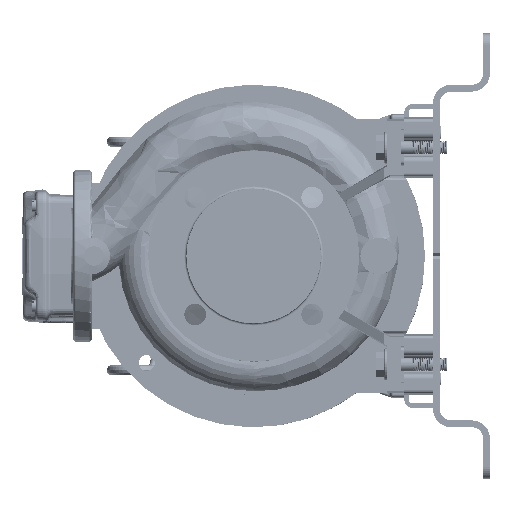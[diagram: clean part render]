
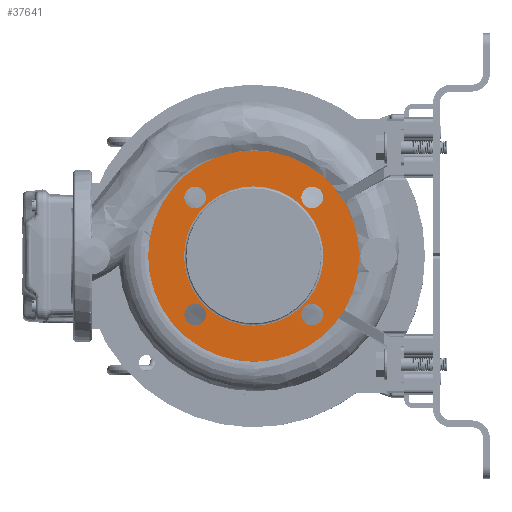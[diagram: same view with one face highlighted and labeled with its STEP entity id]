
A CAD part, left-side view. The second image highlights one B-rep face of the part: STEP entity #37641.
In plain terms, the highlighted planar face has unit normal (-1, 0, 0).
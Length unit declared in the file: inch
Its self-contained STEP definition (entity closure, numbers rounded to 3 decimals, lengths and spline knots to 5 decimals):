
#1914 = CARTESIAN_POINT ( 'NONE',  ( -2.17195, 5.17172, 11.23647 ) ) ;
#1957 = EDGE_CURVE ( 'NONE', #105977, #53203, #112809, .T. ) ;
#4215 = EDGE_LOOP ( 'NONE', ( #87037, #152146 ) ) ;
#5195 = AXIS2_PLACEMENT_3D ( 'NONE', #135320, #96369, #71310 ) ;
#6314 = DIRECTION ( 'NONE',  ( -1., 0., 0. ) ) ;
#9363 = CARTESIAN_POINT ( 'NONE',  ( -2.17195, 6.81603, 9.21815 ) ) ;
#9854 = DIRECTION ( 'NONE',  ( -1., 0., 0. ) ) ;
#10013 = CARTESIAN_POINT ( 'NONE',  ( -2.17195, 7.5733, 11.23647 ) ) ;
#11993 = ORIENTED_EDGE ( 'NONE', *, *, #88673, .F. ) ;
#13375 = CIRCLE ( 'NONE', #151343, 0.37402 ) ;
#19360 = EDGE_CURVE ( 'NONE', #126767, #54666, #145130, .T. ) ;
#22494 = AXIS2_PLACEMENT_3D ( 'NONE', #58581, #71559, #57728 ) ;
#23072 = DIRECTION ( 'NONE',  ( -1., 0., 0. ) ) ;
#24133 = CIRCLE ( 'NONE', #73861, 0.37402 ) ;
#24758 = CARTESIAN_POINT ( 'NONE',  ( -2.17195, 7.19004, 9.21815 ) ) ;
#24900 = DIRECTION ( 'NONE',  ( -1., 0., 0. ) ) ;
#25191 = DIRECTION ( 'NONE',  ( -1., 0., 0. ) ) ;
#25436 = CIRCLE ( 'NONE', #108221, 3.64173 ) ;
#25553 = VERTEX_POINT ( 'NONE', #45716 ) ;
#32091 = VERTEX_POINT ( 'NONE', #121274 ) ;
#32906 = ORIENTED_EDGE ( 'NONE', *, *, #101066, .F. ) ;
#34231 = AXIS2_PLACEMENT_3D ( 'NONE', #90145, #167143, #63357 ) ;
#35550 = CARTESIAN_POINT ( 'NONE',  ( -2.17195, 3.52742, 9.21815 ) ) ;
#36402 = CARTESIAN_POINT ( 'NONE',  ( -2.17195, 3.15341, 13.25478 ) ) ;
#36452 = EDGE_LOOP ( 'NONE', ( #130084, #130408 ) ) ;
#36853 = EDGE_LOOP ( 'NONE', ( #11993, #76667 ) ) ;
#36872 = CARTESIAN_POINT ( 'NONE',  ( -2.17195, 5.17172, 11.23647 ) ) ;
#37641 = ADVANCED_FACE ( 'NONE', ( #169866, #156908, #166452, #141366, #102411, #49684 ), #155194, .F. ) ;
#38948 = DIRECTION ( 'NONE',  ( 0., 0., 1. ) ) ;
#40424 = ORIENTED_EDGE ( 'NONE', *, *, #19360, .T. ) ;
#45716 = CARTESIAN_POINT ( 'NONE',  ( -2.17195, 7.56406, 13.25478 ) ) ;
#45733 = AXIS2_PLACEMENT_3D ( 'NONE', #102707, #24900, #100158 ) ;
#47797 = CARTESIAN_POINT ( 'NONE',  ( -2.17195, 3.15341, 9.21815 ) ) ;
#48031 = CIRCLE ( 'NONE', #34231, 0.37402 ) ;
#49684 = FACE_BOUND ( 'NONE', #4215, .T. ) ;
#51543 = AXIS2_PLACEMENT_3D ( 'NONE', #1914, #25191, #130692 ) ;
#52875 = AXIS2_PLACEMENT_3D ( 'NONE', #128227, #9854, #73788 ) ;
#53203 = VERTEX_POINT ( 'NONE', #158077 ) ;
#53777 = CARTESIAN_POINT ( 'NONE',  ( -2.17195, 3.52742, 13.25478 ) ) ;
#54666 = VERTEX_POINT ( 'NONE', #167444 ) ;
#55591 = CARTESIAN_POINT ( 'NONE',  ( -2.17195, 2.77015, 11.23647 ) ) ;
#57728 = DIRECTION ( 'NONE',  ( 0., 0., -1. ) ) ;
#58581 = CARTESIAN_POINT ( 'NONE',  ( -2.17195, 3.15341, 13.25478 ) ) ;
#60950 = VERTEX_POINT ( 'NONE', #35550 ) ;
#61064 = EDGE_LOOP ( 'NONE', ( #119297, #92422 ) ) ;
#61644 = CARTESIAN_POINT ( 'NONE',  ( -2.17195, 7.56406, 9.21815 ) ) ;
#63357 = DIRECTION ( 'NONE',  ( 0., -1., 0. ) ) ;
#63509 = VERTEX_POINT ( 'NONE', #61644 ) ;
#66113 = EDGE_CURVE ( 'NONE', #63509, #159129, #125680, .T. ) ;
#70107 = EDGE_CURVE ( 'NONE', #60950, #95423, #24133, .T. ) ;
#71310 = DIRECTION ( 'NONE',  ( 0., -1., 0. ) ) ;
#71559 = DIRECTION ( 'NONE',  ( -1., 0., 0. ) ) ;
#73788 = DIRECTION ( 'NONE',  ( 0., -1., 0. ) ) ;
#73861 = AXIS2_PLACEMENT_3D ( 'NONE', #47797, #126502, #166269 ) ;
#76667 = ORIENTED_EDGE ( 'NONE', *, *, #66113, .F. ) ;
#79171 = CIRCLE ( 'NONE', #51543, 2.40157 ) ;
#81890 = EDGE_LOOP ( 'NONE', ( #32906, #114633 ) ) ;
#82703 = EDGE_CURVE ( 'NONE', #53203, #105977, #79171, .T. ) ;
#82946 = CARTESIAN_POINT ( 'NONE',  ( -2.17195, 3.15341, 9.21815 ) ) ;
#82990 = CARTESIAN_POINT ( 'NONE',  ( -2.17195, 1.52999, 11.23647 ) ) ;
#83349 = CIRCLE ( 'NONE', #52875, 0.37402 ) ;
#85722 = DIRECTION ( 'NONE',  ( 0., 0., -1. ) ) ;
#87037 = ORIENTED_EDGE ( 'NONE', *, *, #1957, .F. ) ;
#88544 = CIRCLE ( 'NONE', #135498, 0.37402 ) ;
#88673 = EDGE_CURVE ( 'NONE', #159129, #63509, #126399, .T. ) ;
#89594 = DIRECTION ( 'NONE',  ( 0., -1., 0. ) ) ;
#90145 = CARTESIAN_POINT ( 'NONE',  ( -2.17195, 7.19004, 13.25478 ) ) ;
#92422 = ORIENTED_EDGE ( 'NONE', *, *, #114275, .F. ) ;
#95423 = VERTEX_POINT ( 'NONE', #109632 ) ;
#96369 = DIRECTION ( 'NONE',  ( -1., 0., 0. ) ) ;
#98728 = AXIS2_PLACEMENT_3D ( 'NONE', #112708, #100609, #38948 ) ;
#100158 = DIRECTION ( 'NONE',  ( 0., -1., 0. ) ) ;
#100609 = DIRECTION ( 'NONE',  ( -1., 0., 0. ) ) ;
#101066 = EDGE_CURVE ( 'NONE', #32091, #130986, #130010, .T. ) ;
#102411 = FACE_BOUND ( 'NONE', #61064, .T. ) ;
#102707 = CARTESIAN_POINT ( 'NONE',  ( -2.17195, 5.17172, 11.23647 ) ) ;
#104117 = DIRECTION ( 'NONE',  ( 0., 1., 0. ) ) ;
#104401 = EDGE_CURVE ( 'NONE', #54666, #126767, #25436, .T. ) ;
#105977 = VERTEX_POINT ( 'NONE', #55591 ) ;
#107596 = AXIS2_PLACEMENT_3D ( 'NONE', #10013, #128397, #104117 ) ;
#108221 = AXIS2_PLACEMENT_3D ( 'NONE', #36872, #168288, #89594 ) ;
#108885 = DIRECTION ( 'NONE',  ( 0., 1., 0. ) ) ;
#109632 = CARTESIAN_POINT ( 'NONE',  ( -2.17195, 2.77939, 9.21815 ) ) ;
#112708 = CARTESIAN_POINT ( 'NONE',  ( -2.17195, 7.19004, 9.21815 ) ) ;
#112809 = CIRCLE ( 'NONE', #5195, 2.40157 ) ;
#114275 = EDGE_CURVE ( 'NONE', #25553, #114950, #83349, .T. ) ;
#114633 = ORIENTED_EDGE ( 'NONE', *, *, #126463, .F. ) ;
#114950 = VERTEX_POINT ( 'NONE', #168354 ) ;
#117218 = EDGE_CURVE ( 'NONE', #114950, #25553, #48031, .T. ) ;
#119297 = ORIENTED_EDGE ( 'NONE', *, *, #117218, .F. ) ;
#121274 = CARTESIAN_POINT ( 'NONE',  ( -2.17195, 2.77939, 13.25478 ) ) ;
#125680 = CIRCLE ( 'NONE', #158892, 0.37402 ) ;
#126399 = CIRCLE ( 'NONE', #98728, 0.37402 ) ;
#126463 = EDGE_CURVE ( 'NONE', #130986, #32091, #13375, .T. ) ;
#126502 = DIRECTION ( 'NONE',  ( -1., 0., 0. ) ) ;
#126767 = VERTEX_POINT ( 'NONE', #82990 ) ;
#128227 = CARTESIAN_POINT ( 'NONE',  ( -2.17195, 7.19004, 13.25478 ) ) ;
#128397 = DIRECTION ( 'NONE',  ( 1., 0., 0. ) ) ;
#130010 = CIRCLE ( 'NONE', #22494, 0.37402 ) ;
#130084 = ORIENTED_EDGE ( 'NONE', *, *, #156768, .F. ) ;
#130257 = DIRECTION ( 'NONE',  ( 0., 0., 1. ) ) ;
#130408 = ORIENTED_EDGE ( 'NONE', *, *, #70107, .F. ) ;
#130692 = DIRECTION ( 'NONE',  ( 0., -1., 0. ) ) ;
#130986 = VERTEX_POINT ( 'NONE', #53777 ) ;
#135320 = CARTESIAN_POINT ( 'NONE',  ( -2.17195, 5.17172, 11.23647 ) ) ;
#135498 = AXIS2_PLACEMENT_3D ( 'NONE', #82946, #146122, #108885 ) ;
#141366 = FACE_BOUND ( 'NONE', #36853, .T. ) ;
#145130 = CIRCLE ( 'NONE', #45733, 3.64173 ) ;
#146122 = DIRECTION ( 'NONE',  ( -1., 0., 0. ) ) ;
#151343 = AXIS2_PLACEMENT_3D ( 'NONE', #36402, #6314, #85722 ) ;
#152146 = ORIENTED_EDGE ( 'NONE', *, *, #82703, .F. ) ;
#154256 = ORIENTED_EDGE ( 'NONE', *, *, #104401, .T. ) ;
#155194 = PLANE ( 'NONE',  #107596 ) ;
#156768 = EDGE_CURVE ( 'NONE', #95423, #60950, #88544, .T. ) ;
#156908 = FACE_BOUND ( 'NONE', #81890, .T. ) ;
#158077 = CARTESIAN_POINT ( 'NONE',  ( -2.17195, 7.5733, 11.23647 ) ) ;
#158892 = AXIS2_PLACEMENT_3D ( 'NONE', #24758, #23072, #130257 ) ;
#159129 = VERTEX_POINT ( 'NONE', #9363 ) ;
#166269 = DIRECTION ( 'NONE',  ( 0., 1., 0. ) ) ;
#166452 = FACE_BOUND ( 'NONE', #36452, .T. ) ;
#167143 = DIRECTION ( 'NONE',  ( -1., 0., 0. ) ) ;
#167444 = CARTESIAN_POINT ( 'NONE',  ( -2.17195, 8.81346, 11.23647 ) ) ;
#168288 = DIRECTION ( 'NONE',  ( -1., 0., 0. ) ) ;
#168354 = CARTESIAN_POINT ( 'NONE',  ( -2.17195, 6.81603, 13.25478 ) ) ;
#169866 = FACE_OUTER_BOUND ( 'NONE', #170333, .T. ) ;
#170333 = EDGE_LOOP ( 'NONE', ( #40424, #154256 ) ) ;
